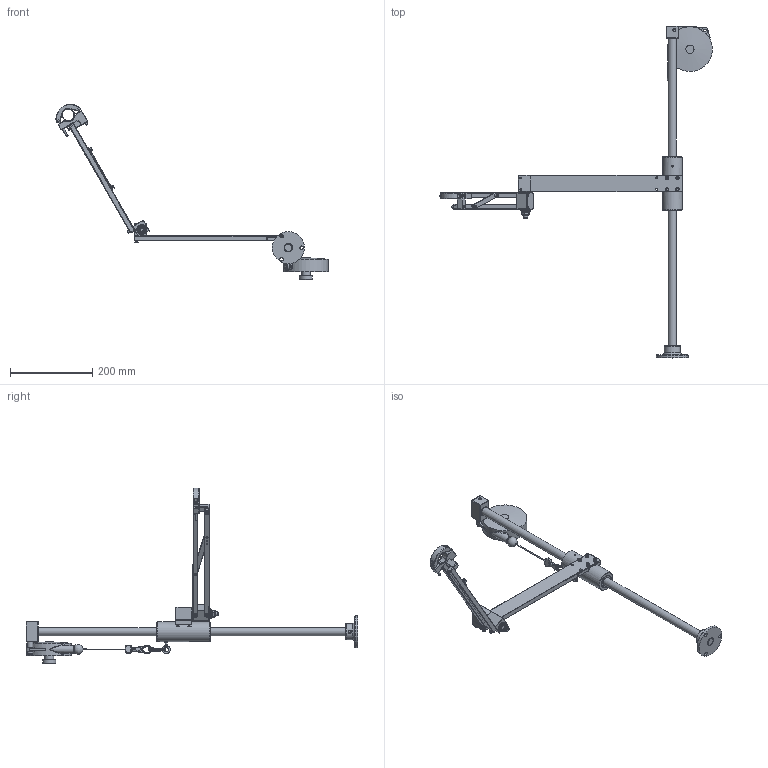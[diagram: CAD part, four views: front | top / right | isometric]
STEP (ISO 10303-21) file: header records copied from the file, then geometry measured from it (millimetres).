
FILE_DESCRIPTION(/* description */ ('Unknown'),/* implementation_level */ '2;1');
FILE_NAME(/* name */ '4-1201002_bras BA 12 R_600',/* time_stamp */ '2016-04-06T13:55:43+02:00',/* author */ ('Unknown'),/* organization */ ('Unknown'),/* preprocessor_version */ 'ST-DEVELOPER v16',/* originating_system */ 'DEX',/* authorisation */ $);
FILE_SCHEMA (('AUTOMOTIVE_DESIGN {1 0 10303 214 3 1 1}'));
Length unit declared in the file: millimetre
Products named in the file (39): 4-1201002_bras BA 12 R_600; Pince BA12R; CHC M5x45 fileté sous tête; Collier; Pince ; Placement; Asm Avant bras BA12R-0° EUROSONICS -; Butée à aiguilles AXK1024; Carré supérieur EUROSONICS; Règle immobilisatrice; Carré inférieur EUROSONICS; 10 M; Pivot 1; CHC M5x35; CHC M5x25; CHC M5x16; Roulement à aiguilles HK1212; 12 Z; H M10 Nyl; Asm arrière bras BA12R EUROSONICS; CHC M5x20; Axe 12; Pivot 2; Douille KB20; Plaque support BA12R EUROSONICS; Fourreau; Piton M5; Cable; Mat; Vis HC M8x10 à bout plat; Mat ﾘ20; Pied; Equilibreur; Vis M4x8; CHC M8x35; Entretoise; Equilibreur 2 - 3 Kg; Bague; Support equilibreur BA12
Assembly tree (50 placements, depth 3):
  4-1201002_bras BA 12 R_600
    Pince BA12R
      CHC M5x45 fileté sous tête  x2
      Collier
      Pince 
      Placement
    Asm Avant bras BA12R-0° EUROSONICS -
      Butée à aiguilles AXK1024
      Carré supérieur EUROSONICS
      Règle immobilisatrice
      Carré inférieur EUROSONICS
      10 M  x2
      Pivot 1
      CHC M5x35  x2
      CHC M5x25  x2
      CHC M5x16  x2
      Roulement à aiguilles HK1212  x2
      12 Z
      H M10 Nyl
    Asm arrière bras BA12R EUROSONICS
      CHC M5x25  x2
      CHC M5x20  x4
      Axe 12
      Pivot 2
      Douille KB20  x2
      Plaque support BA12R EUROSONICS
      Fourreau
      Piton M5
    Cable
    Mat
      Vis HC M8x10 à bout plat
      Mat ﾘ20
      Pied
    Equilibreur
      Vis M4x8
      CHC M8x35
      Entretoise
      Equilibreur 2 - 3 Kg
      Bague
      Support equilibreur BA12
Bounding box: 663.53 x 808 x 427.26 mm (x, y, z)
Volume: 1261280.5 mm3; surface area: 305579.1 mm2
Topology: 45 solids, 45 shells, 1040 faces, 2338 edges, 1438 vertices
Faces by surface type: plane 572, cylinder 352, cone 68, torus 37, sphere 8, bspline 3
Full cylindrical faces by diameter (mm): 2 x1, 2.4 x1, 2.459 x8, 2.5 x2, 3.3 x1, 4 x1, 4.2 x18, 4.5 x1, 4.8 x14, 5 x29, 5.5 x2, 6 x1, 6.5 x1, 6.8 x2, 7.5 x1, 7.8 x1, 8 x3, 8.5 x19, 9 x3, 10 x4, 12 x5, 13 x2, 15.475 x1, 18 x3, 19 x1, 20 x6, 21 x1, 22 x3, 23 x2, 24 x1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
Entity records: 37615 total; most frequent: CARTESIAN_POINT 18012, DIRECTION 3942, ORIENTED_EDGE 3428, EDGE_CURVE 1714, AXIS2_PLACEMENT_3D 1526, FACE_BOUND 1212, EDGE_LOOP 1201, VERTEX_POINT 1126
